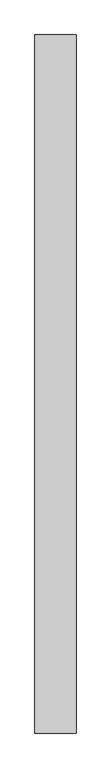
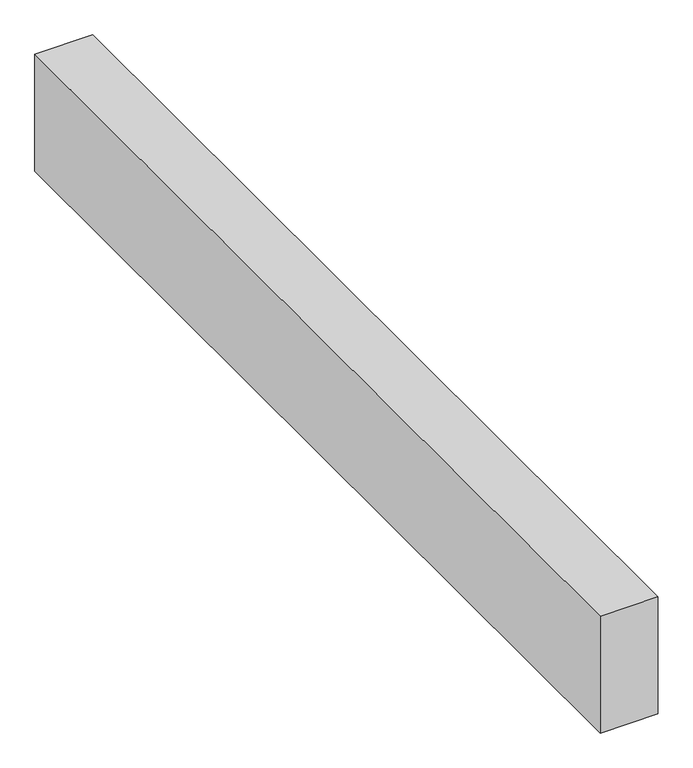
"""IFC4 building model written with IfcOpenShell, lengths in millimetres: proxy geometry."""

import ifcopenshell
import ifcopenshell.guid

model = None  # the IFC model being written
_history = None  # IfcOwnerHistory: only IFC2X3 demands one
_inside = {}  # id of a spatial element -> (the spatial element, [elements in it])
_under = {}  # id of a project, library or spatial element -> (it, [spatial elements below it])
_declared = {}  # id of a project -> (the project, [libraries it declares])
_typed = {}  # id of a type object -> (the type object, [elements of that type])
_made_of = {}  # id of a material, layer set ... -> (it, [elements and type objects made of it])


def new_model(schema):
    """Start an empty IFC model of exactly this schema.

    Asked for "IFC4X3", IfcOpenShell would pick the latest addendum, in which some entities
    have other attributes; the version numbers below select the first issue.
    IFC2X3 requires an IfcOwnerHistory on every rooted entity: one is made here for all.
    """
    global model, _history
    if schema == "IFC4X3":
        model = ifcopenshell.file(schema_version=(4, 3, 0, 0))
    else:
        model = ifcopenshell.file(schema=schema)
    _inside.clear()
    _under.clear()
    _declared.clear()
    _typed.clear()
    _made_of.clear()
    _history = None
    if model.schema == "IFC2X3":
        org = make("IfcOrganization", Name="unknown")
        user = make(
            "IfcPersonAndOrganization",
            ThePerson=make("IfcPerson", FamilyName="unknown"),
            TheOrganization=org,
        )
        app = make(
            "IfcApplication",
            ApplicationDeveloper=org,
            Version="unknown",
            ApplicationFullName="unknown",
            ApplicationIdentifier="unknown",
        )
        _history = make(
            "IfcOwnerHistory",
            OwningUser=user,
            OwningApplication=app,
            ChangeAction="ADDED",
            CreationDate=0,
        )
    return model


def make(cls, **values):
    """One entity of the class cls with the attributes given. An attribute that is None is left unset."""
    return model.create_entity(
        cls, **{name: value for name, value in values.items() if value is not None}
    )


def rooted(cls, **values):
    """An entity with a GlobalId (a new one), such as an element, a storey or a relation."""
    return make(cls, GlobalId=ifcopenshell.guid.new(), OwnerHistory=_history, **values)


def si_unit(unit_type, name, prefix=None):
    """IfcSIUnit, for example si_unit("LENGTHUNIT", "METRE", prefix="MILLI")."""
    return make("IfcSIUnit", UnitType=unit_type, Prefix=prefix, Name=name)


def assignment(units):
    """IfcUnitAssignment: the units of a project."""
    return None if units is None else make("IfcUnitAssignment", Units=units)


def point(xyz):
    """IfcCartesianPoint."""
    return None if xyz is None else make("IfcCartesianPoint", Coordinates=xyz)


def direction(xyz):
    """IfcDirection."""
    return None if xyz is None else make("IfcDirection", DirectionRatios=xyz)


def frame(location, z_axis=None, x_axis=None):
    """IfcAxis2Placement3D, a coordinate frame: its origin and axes. An axis left out is left unset."""
    return make(
        "IfcAxis2Placement3D",
        Location=point(location),
        Axis=direction(z_axis),
        RefDirection=direction(x_axis),
    )


def origin():
    """The frame at (0, 0, 0) with its axes left unset."""
    return frame((0.0, 0.0, 0.0))


def place(relative_to, where):
    """IfcLocalPlacement: puts the frame where relative to a parent placement (None: the world)."""
    return make(
        "IfcLocalPlacement", PlacementRelTo=relative_to, RelativePlacement=where
    )


def context(
    kind, dimensions, precision=None, world=None, true_north=None, identifier=None
):
    """IfcGeometricRepresentationContext, for example the 3D "Model" context."""
    return make(
        "IfcGeometricRepresentationContext",
        ContextIdentifier=identifier,
        ContextType=kind,
        CoordinateSpaceDimension=dimensions,
        Precision=precision,
        WorldCoordinateSystem=world,
        TrueNorth=true_north,
    )


def project(units=None, contexts=None):
    """IfcProject with its units and contexts."""
    return rooted(
        "IfcProject",
        Name="project",
        RepresentationContexts=contexts,
        UnitsInContext=assignment(units),
    )


def spatial(cls, under=None, at=None, **own):
    """A site, building, storey or space (cls), placed at a placement, below another one or the project."""
    s = rooted(cls, ObjectPlacement=at, **own)
    if under is not None:
        _under.setdefault(under.id(), (under, []))[1].append(s)
    return s


def polyline(points):
    """IfcPolyline through the points."""
    return make("IfcPolyline", Points=[point(p) for p in points])


def outline(outer, holes=None, kind="AREA"):
    """IfcArbitraryClosedProfileDef: a profile drawn as a closed curve; with holes, ...WithVoids."""
    if holes is None:
        return make("IfcArbitraryClosedProfileDef", ProfileType=kind, OuterCurve=outer)
    return make(
        "IfcArbitraryProfileDefWithVoids",
        ProfileType=kind,
        OuterCurve=outer,
        InnerCurves=holes,
    )


def extrude(swept, where, along, depth):
    """IfcExtrudedAreaSolid: the profile swept, set in the frame where, extruded along a direction by depth."""
    return make(
        "IfcExtrudedAreaSolid",
        SweptArea=swept,
        Position=where,
        ExtrudedDirection=direction(along),
        Depth=depth,
    )


def shape(context_of_items, identifier, shape_type, items):
    """IfcShapeRepresentation: the items that make up one representation, for example the "Body"."""
    return make(
        "IfcShapeRepresentation",
        ContextOfItems=context_of_items,
        RepresentationIdentifier=identifier,
        RepresentationType=shape_type,
        Items=items,
    )


def source(mapping_origin, context_of_items, identifier, shape_type, items):
    """IfcRepresentationMap: a shape defined once, which mapped items show again and again."""
    return make(
        "IfcRepresentationMap",
        MappingOrigin=mapping_origin,
        MappedRepresentation=shape(context_of_items, identifier, shape_type, items),
    )


def transform(
    local_origin,
    x_axis=None,
    y_axis=None,
    z_axis=None,
    scale=None,
    scale2=None,
    scale3=None,
    uniform=True,
):
    """IfcCartesianTransformationOperator3D, or its non-uniform kind. x_axis, y_axis, z_axis: its Axis1, 2, 3."""
    if uniform:
        return make(
            "IfcCartesianTransformationOperator3D",
            Axis1=direction(x_axis),
            Axis2=direction(y_axis),
            LocalOrigin=point(local_origin),
            Scale=scale,
            Axis3=direction(z_axis),
        )
    return make(
        "IfcCartesianTransformationOperator3DnonUniform",
        Axis1=direction(x_axis),
        Axis2=direction(y_axis),
        LocalOrigin=point(local_origin),
        Scale=scale,
        Axis3=direction(z_axis),
        Scale2=scale2,
        Scale3=scale3,
    )


def mapped(mapping_source, mapping_target):
    """IfcMappedItem: shows the shape of a source again, moved by a transform."""
    return make(
        "IfcMappedItem", MappingSource=mapping_source, MappingTarget=mapping_target
    )


def made_of(thing, what):
    """Note that an element or type object is made of a material, layer set ...; save() writes the relation."""
    if what is not None:
        _made_of.setdefault(what.id(), (what, []))[1].append(thing)
    return thing


def element(
    cls,
    number,
    at=None,
    inside=None,
    cuts=None,
    type_object=None,
    material=None,
    context=None,
    identifier="Body",
    shape_type=None,
    held_by="IfcProductDefinitionShape",
    body=None,
    shapes=None,
    **own,
):
    """One element of the class cls, such as IfcWall. Its Tag is "e" and its number.

    at: its placement. inside: the storey or other place that contains it. cuts: it is an
    opening in that element (IfcRelVoidsElement). A single representation is given by context,
    identifier, shape_type and body (its items); several are given by shapes. held_by: the class
    of the entity that holds the representations. save() writes the other relations.
    """
    e = rooted(cls, Tag="e%d" % number, ObjectPlacement=at, **own)
    if body is not None:
        shapes = [shape(context, identifier, shape_type, body)]
    if shapes is not None:
        e.Representation = make(held_by, Representations=shapes)
    if inside is not None:
        _inside.setdefault(inside.id(), (inside, []))[1].append(e)
    if cuts is not None:
        rooted(
            "IfcRelVoidsElement", RelatingBuildingElement=cuts, RelatedOpeningElement=e
        )
    if type_object is not None:
        _typed.setdefault(type_object.id(), (type_object, []))[1].append(e)
    return made_of(e, material)


def aggregate(whole, parts):
    """IfcRelAggregates: a whole, such as a stair, and the parts it consists of."""
    return rooted("IfcRelAggregates", RelatingObject=whole, RelatedObjects=parts)


def save(model, path):
    """Write the relations noted so far, then the file.

    IfcRelAggregates (storeys below a building ...), IfcRelContainedInSpatialStructure (elements
    in a storey), IfcRelDefinesByType, IfcRelAssociatesMaterial and IfcRelDeclares: one each for
    every whole, place, type object, material and project.
    """
    for whole, parts in _under.values():
        aggregate(whole, parts)
    for where, things in _inside.values():
        rooted(
            "IfcRelContainedInSpatialStructure",
            RelatedElements=things,
            RelatingStructure=where,
        )
    for kind, things in _typed.values():
        rooted("IfcRelDefinesByType", RelatedObjects=things, RelatingType=kind)
    for what, things in _made_of.values():
        rooted("IfcRelAssociatesMaterial", RelatedObjects=things, RelatingMaterial=what)
    for by, libraries in _declared.values():
        rooted("IfcRelDeclares", RelatingContext=by, RelatedDefinitions=libraries)
    model.write(path)


def structural_framing_396bdc43(model_context):
    return source(origin(), model_context, "Body", "SweptSolid", [
        extrude(outline(polyline([(70.0, -1187.6), (-70.0, -1187.6), (-70.0, 1187.6), (70.0, 1187.6), (70.0, -1187.6)])), frame((0.0, 0.0, -300.0), z_axis=(0.0, 0.0, 1.0), x_axis=(1.0, 0.0, 0.0)), (0.0, 0.0, 1.0), 300.0),
    ])


if __name__ == "__main__":
    model = new_model("IFC4")
    model_context = context("Model", 3, world=origin())
    ifc_project = project(units=[si_unit("LENGTHUNIT", "METRE", prefix="MILLI")], contexts=[model_context])
    site = spatial("IfcSite", under=ifc_project)
    building = spatial("IfcBuilding", under=site)
    placement = place(None, origin())
    structural_framing_shape = structural_framing_396bdc43(model_context)
    element("IfcBuildingElementProxy", 1, Name="Structural Framing", at=placement, inside=building, context=model_context, shape_type="MappedRepresentation", body=[
        mapped(structural_framing_shape, transform((0.0, 0.0, 0.0), x_axis=(1.0, 0.0, 0.0), y_axis=(0.0, 1.0, 0.0), z_axis=(0.0, 0.0, 1.0))),
    ])
    save(model, "model.ifc")
